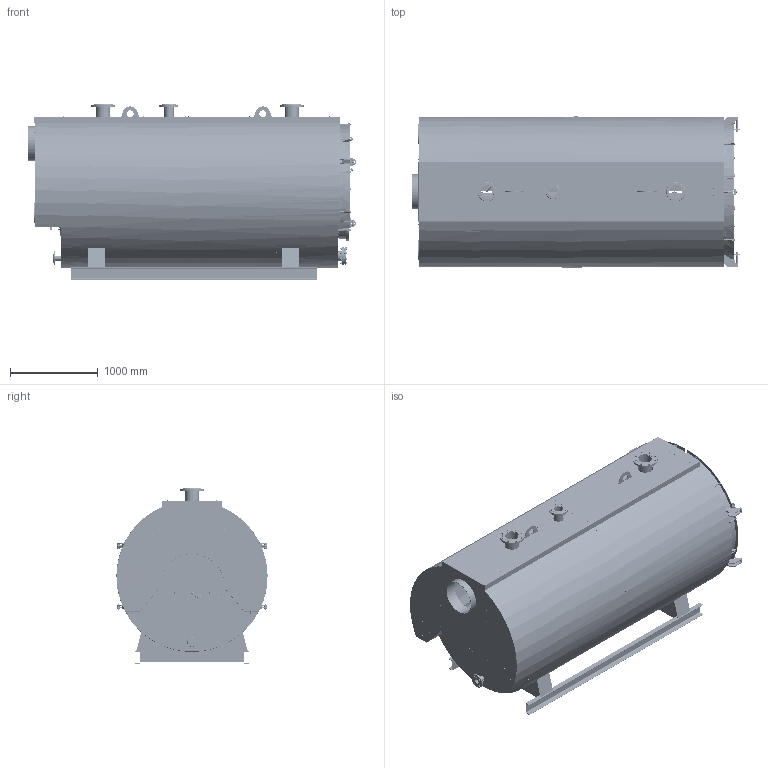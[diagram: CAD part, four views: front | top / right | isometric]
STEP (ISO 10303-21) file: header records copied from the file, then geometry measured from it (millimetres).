
FILE_DESCRIPTION(('STEP AP203'), '1');
FILE_NAME('ÊÎÒ¨Ë âîäîãðåéíûé ñòàëüíîé 3-õ õîäîâîé (2,0 ÌÂò)', '2022-01-14T12:00:03', (''), (''), 'ASCON STEP Converter 1.6', 'ASCON Math Kernel', '');
FILE_SCHEMA(('CONFIG_CONTROL_DESIGN'));
Length unit declared in the file: millimetre
Products named in the file (1): КЕВМ.3135.00.00.000-03 СБ
Bounding box: 3738 x 1721.83 x 1997 mm (x, y, z)
Volume: 76447726.2 mm3; surface area: 68785710.3 mm2
Topology: 115 solids, 131 shells, 5014 faces, 11853 edges, 7471 vertices
Faces by surface type: plane 2699, cylinder 1488, cone 487, bspline 210, torus 116, sphere 8, extrusion 6
Full cylindrical faces by diameter (mm): 2 x2, 2.45 x26, 4 x30, 4.1 x14, 5.5 x28, 6.647 x8, 7 x20, 7.1 x28, 8 x12, 8.4 x8, 10 x29, 10.106 x16, 10.3 x8, 10.5 x6, 11 x34, 12 x50, 13 x16, 14 x18, 14.5 x1, 15 x21, 16 x38, 17 x24, 18 x32, 20 x22, 20.4 x1, 20.955 x1, 21.2 x2, 22 x16, 23.12 x8, 24 x16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
Entity records: 199303 total; most frequent: CARTESIAN_POINT 89155, DIRECTION 22013, ORIENTED_EDGE 21360, EDGE_CURVE 10680, AXIS2_PLACEMENT_3D 8412, VERTEX_POINT 7381, EDGE_LOOP 6909, FACE_BOUND 5216
